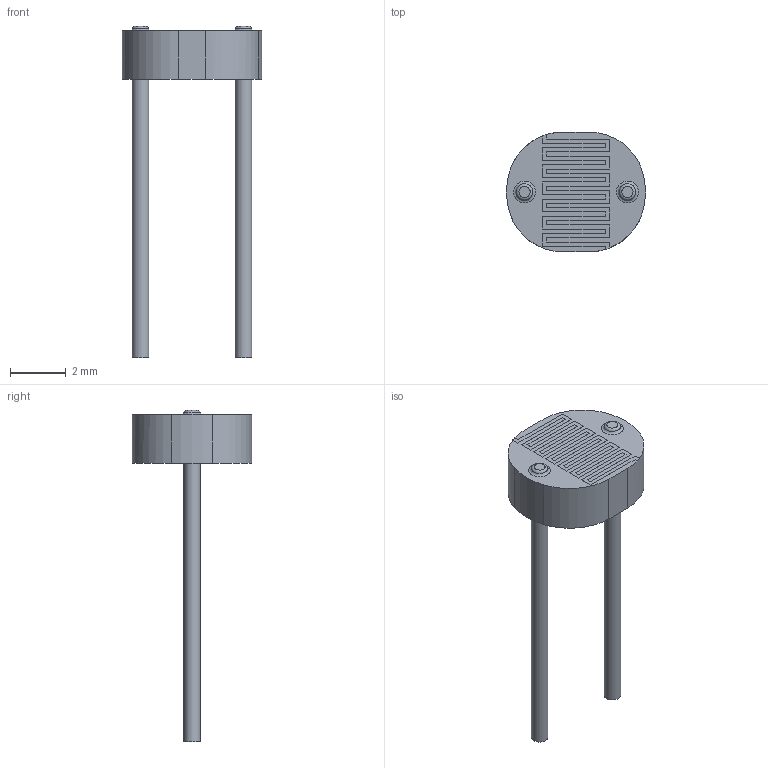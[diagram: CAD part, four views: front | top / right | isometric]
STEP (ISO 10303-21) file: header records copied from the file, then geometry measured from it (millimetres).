
FILE_DESCRIPTION(/* description */ (''),/* implementation_level */ '2;1');
FILE_NAME(/* name */ 'LDR v1.step',/* time_stamp */ '2024-10-18T11:54:19+02:00',/* author */ (''),/* organization */ (''),/* preprocessor_version */ 'ST-DEVELOPER v20',/* originating_system */ 'Autodesk Translation Framework v13.20.0.188',/* authorisation */ '');
FILE_SCHEMA (('AUTOMOTIVE_DESIGN { 1 0 10303 214 3 1 1 }'));
Length unit declared in the file: millimetre
Products named in the file (1): LDR
Bounding box: 5 x 4.3 x 11.9 mm (x, y, z)
Volume: 37.1 mm3; surface area: 100.2 mm2
Topology: 1 solids, 1 shells, 76 faces, 210 edges, 140 vertices
Faces by surface type: plane 64, cylinder 8, bspline 2, torus 2
Full cylindrical faces by diameter (mm): 0.6 x2
Entity records: 2655 total; most frequent: CARTESIAN_POINT 637, ORIENTED_EDGE 420, DIRECTION 380, EDGE_CURVE 210, LINE 178, VECTOR 178, VERTEX_POINT 140, AXIS2_PLACEMENT_3D 101
